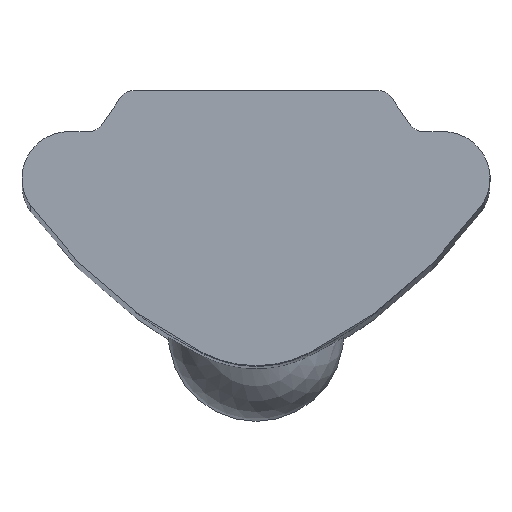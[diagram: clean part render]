
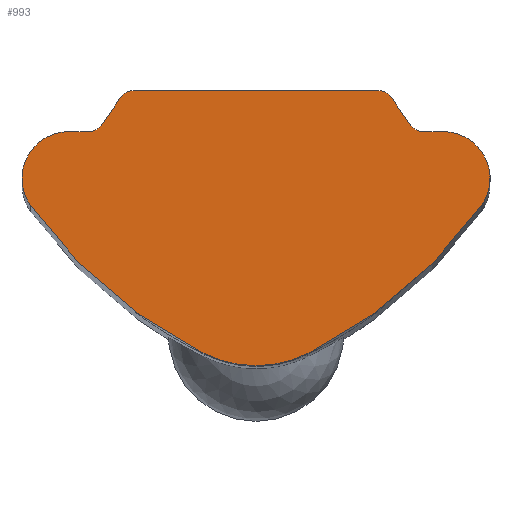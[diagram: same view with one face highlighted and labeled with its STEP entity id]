
A CAD part, top view. The second image highlights one B-rep face of the part: STEP entity #993.
In plain terms, the highlighted planar face has unit normal (0, 0, 1).
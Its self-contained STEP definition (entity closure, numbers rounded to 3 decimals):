
#224=CARTESIAN_POINT('',(3.852,2.736,60.0));
#225=VERTEX_POINT('',#224);
#232=CARTESIAN_POINT('',(0.889,0.208,60.0));
#233=VERTEX_POINT('',#232);
#234=CARTESIAN_POINT('',(-2.666,7.375,60.0));
#235=DIRECTION('',(0.0,0.0,-1.));
#236=DIRECTION('',(0.444,-0.896,0.0));
#237=AXIS2_PLACEMENT_3D('',#234,#235,#236);
#238=CIRCLE('',#237,8.0);
#239=EDGE_CURVE('',#225,#233,#238,.T.);
#439=CARTESIAN_POINT('',(-0.889,0.208,60.0));
#440=VERTEX_POINT('',#439);
#447=CARTESIAN_POINT('',(-3.852,2.736,60.0));
#448=VERTEX_POINT('',#447);
#449=CARTESIAN_POINT('',(2.666,7.375,60.0));
#450=DIRECTION('',(0.0,0.0,-1.));
#451=DIRECTION('',(-0.815,-0.58,0.0));
#452=AXIS2_PLACEMENT_3D('',#449,#450,#451);
#453=CIRCLE('',#452,8.0);
#454=EDGE_CURVE('',#440,#448,#453,.T.);
#571=CARTESIAN_POINT('',(0.0,2.,60.0));
#572=DIRECTION('',(0.0,0.0,-1.));
#573=DIRECTION('',(-0.444,-0.896,0.0));
#574=AXIS2_PLACEMENT_3D('',#571,#572,#573);
#575=CIRCLE('',#574,2.);
#576=EDGE_CURVE('',#233,#440,#575,.T.);
#587=CARTESIAN_POINT('',(2.1,4.7,60.0));
#588=VERTEX_POINT('',#587);
#589=CARTESIAN_POINT('',(2.305,4.593,60.0));
#590=VERTEX_POINT('',#589);
#591=CARTESIAN_POINT('',(2.1,4.45,60.0));
#592=DIRECTION('',(0.0,0.0,-1.));
#593=DIRECTION('',(0.819,0.573,0.0));
#594=AXIS2_PLACEMENT_3D('',#591,#592,#593);
#595=CIRCLE('',#594,0.25);
#596=EDGE_CURVE('',#588,#590,#595,.T.);
#629=CARTESIAN_POINT('',(2.645,4.107,60.0));
#630=VERTEX_POINT('',#629);
#631=CARTESIAN_POINT('',(2.305,4.593,60.0));
#632=DIRECTION('',(0.573,-0.819,0.0));
#633=VECTOR('',#632,0.594);
#634=LINE('',#631,#633);
#635=EDGE_CURVE('',#590,#630,#634,.T.);
#660=CARTESIAN_POINT('',(2.85,4.,60.0));
#661=VERTEX_POINT('',#660);
#662=CARTESIAN_POINT('',(2.85,4.25,60.0));
#663=DIRECTION('',(0.0,0.0,1.0));
#664=DIRECTION('',(0.819,0.573,0.0));
#665=AXIS2_PLACEMENT_3D('',#662,#663,#664);
#666=CIRCLE('',#665,0.25);
#667=EDGE_CURVE('',#630,#661,#666,.T.);
#693=CARTESIAN_POINT('',(3.2,4.,60.0));
#694=VERTEX_POINT('',#693);
#695=CARTESIAN_POINT('',(2.85,4.,60.0));
#696=DIRECTION('',(1.0,0.0,0.0));
#697=VECTOR('',#696,0.35);
#698=LINE('',#695,#697);
#699=EDGE_CURVE('',#661,#694,#698,.T.);
#724=CARTESIAN_POINT('',(3.2,3.2,60.0));
#725=DIRECTION('',(0.0,0.0,-1.));
#726=DIRECTION('',(0.815,-0.58,0.0));
#727=AXIS2_PLACEMENT_3D('',#724,#725,#726);
#728=CIRCLE('',#727,0.8);
#729=EDGE_CURVE('',#694,#225,#728,.T.);
#766=CARTESIAN_POINT('',(-3.2,4.,60.0));
#767=VERTEX_POINT('',#766);
#768=CARTESIAN_POINT('',(-3.2,3.2,60.0));
#769=DIRECTION('',(0.0,0.0,-1.0));
#770=DIRECTION('',(0.,1.0,0.0));
#771=AXIS2_PLACEMENT_3D('',#768,#769,#770);
#772=CIRCLE('',#771,0.8);
#773=EDGE_CURVE('',#448,#767,#772,.T.);
#799=CARTESIAN_POINT('',(-2.85,4.,60.0));
#800=VERTEX_POINT('',#799);
#801=CARTESIAN_POINT('',(-3.2,4.,60.0));
#802=DIRECTION('',(1.0,0.0,0.0));
#803=VECTOR('',#802,0.35);
#804=LINE('',#801,#803);
#805=EDGE_CURVE('',#767,#800,#804,.T.);
#830=CARTESIAN_POINT('',(-2.645,4.107,60.0));
#831=VERTEX_POINT('',#830);
#832=CARTESIAN_POINT('',(-2.85,4.25,60.0));
#833=DIRECTION('',(0.0,0.0,1.0));
#834=DIRECTION('',(0.,1.0,0.0));
#835=AXIS2_PLACEMENT_3D('',#832,#833,#834);
#836=CIRCLE('',#835,0.25);
#837=EDGE_CURVE('',#800,#831,#836,.T.);
#863=CARTESIAN_POINT('',(-2.305,4.593,60.0));
#864=VERTEX_POINT('',#863);
#865=CARTESIAN_POINT('',(-2.645,4.107,60.0));
#866=DIRECTION('',(0.573,0.819,0.0));
#867=VECTOR('',#866,0.594);
#868=LINE('',#865,#867);
#869=EDGE_CURVE('',#831,#864,#868,.T.);
#894=CARTESIAN_POINT('',(-2.1,4.7,60.0));
#895=VERTEX_POINT('',#894);
#896=CARTESIAN_POINT('',(-2.1,4.45,60.0));
#897=DIRECTION('',(0.0,0.0,-1.0));
#898=DIRECTION('',(0.,1.0,0.0));
#899=AXIS2_PLACEMENT_3D('',#896,#897,#898);
#900=CIRCLE('',#899,0.25);
#901=EDGE_CURVE('',#864,#895,#900,.T.);
#927=CARTESIAN_POINT('',(-2.1,4.7,60.0));
#928=DIRECTION('',(1.0,0.0,0.0));
#929=VECTOR('',#928,4.2);
#930=LINE('',#927,#929);
#931=EDGE_CURVE('',#895,#588,#930,.T.);
#972=CARTESIAN_POINT('',(0.,2.712,60.0));
#973=DIRECTION('',(0.0,0.0,1.0));
#974=DIRECTION('',(1.0,0.0,0.0));
#975=AXIS2_PLACEMENT_3D('',#972,#973,#974);
#976=PLANE('',#975);
#977=ORIENTED_EDGE('',*,*,#596,.F.);
#978=ORIENTED_EDGE('',*,*,#931,.F.);
#979=ORIENTED_EDGE('',*,*,#901,.F.);
#980=ORIENTED_EDGE('',*,*,#869,.F.);
#981=ORIENTED_EDGE('',*,*,#837,.F.);
#982=ORIENTED_EDGE('',*,*,#805,.F.);
#983=ORIENTED_EDGE('',*,*,#773,.F.);
#984=ORIENTED_EDGE('',*,*,#454,.F.);
#985=ORIENTED_EDGE('',*,*,#576,.F.);
#986=ORIENTED_EDGE('',*,*,#239,.F.);
#987=ORIENTED_EDGE('',*,*,#729,.F.);
#988=ORIENTED_EDGE('',*,*,#699,.F.);
#989=ORIENTED_EDGE('',*,*,#667,.F.);
#990=ORIENTED_EDGE('',*,*,#635,.F.);
#991=EDGE_LOOP('',(#977,#978,#979,#980,#981,#982,#983,#984,#985,#986,#987,#988,#989,#990));
#992=FACE_OUTER_BOUND('',#991,.T.);
#993=ADVANCED_FACE('',(#992),#976,.T.);
